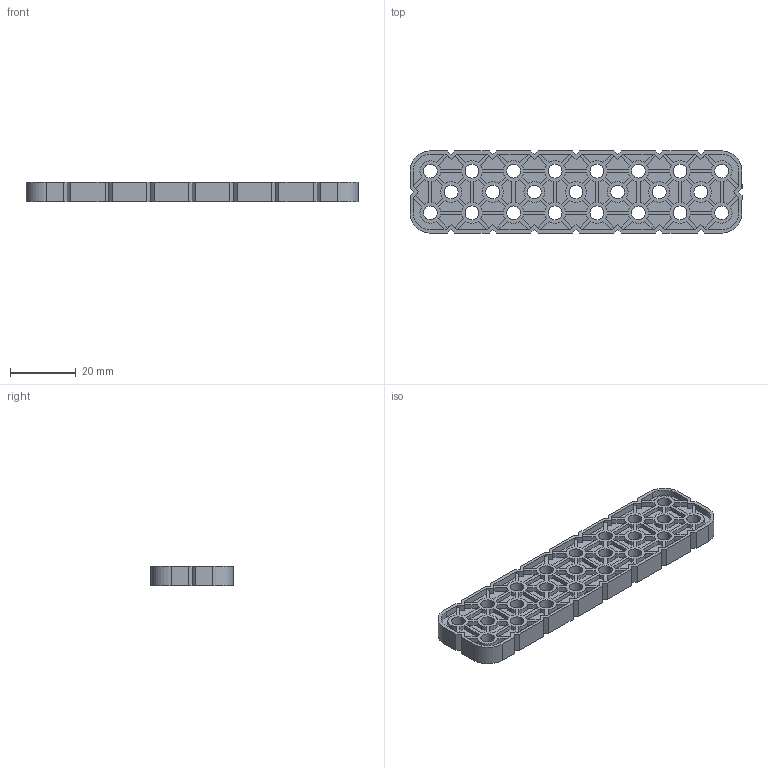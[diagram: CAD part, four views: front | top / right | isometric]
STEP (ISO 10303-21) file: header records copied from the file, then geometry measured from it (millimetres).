
FILE_DESCRIPTION (( 'STEP AP214' ), '1' );
FILE_NAME ('228-2500-023 Rev9.STEP', '2021-02-18T19:29:03', ( '' ), ( '' ), 'SwSTEP 2.0', 'SolidWorks 2019', '' );
FILE_SCHEMA (( 'AUTOMOTIVE_DESIGN' ));
Length unit declared in the file: millimetre
Products named in the file (1): 228-2500-023 Rev9
Bounding box: 101.3 x 25.1 x 6.1 mm (x, y, z)
Volume: 7319.7 mm3; surface area: 10845.6 mm2
Topology: 1 solids, 1 shells, 948 faces, 2664 edges, 1776 vertices
Faces by surface type: plane 608, cylinder 340
Entity records: 30714 total; most frequent: CARTESIAN_POINT 5389, ORIENTED_EDGE 5328, DIRECTION 5242, EDGE_CURVE 2664, VECTOR 1984, LINE 1984, VERTEX_POINT 1776, AXIS2_PLACEMENT_3D 1629
